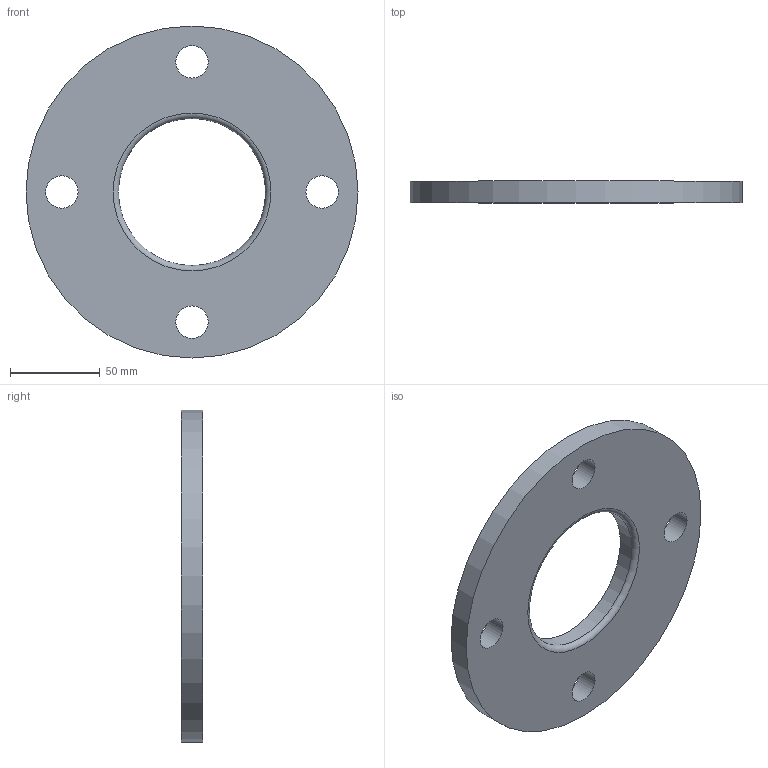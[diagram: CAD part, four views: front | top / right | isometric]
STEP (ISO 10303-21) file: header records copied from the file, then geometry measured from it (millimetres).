
FILE_DESCRIPTION(/* description */ (''),/* implementation_level */ '2;1');
FILE_NAME(/* name */ 'Z:\Geberit\Export\NewStep\365745.stp',/* time_stamp */ '2014-04-02T07:35:11+02:00',/* author */ ('nelson'),/* organization */ (''),/* preprocessor_version */ 'ST-DEVELOPER v15.2',/* originating_system */ 'Autodesk Inventor 2014',/* authorisation */ '');
FILE_SCHEMA (('AUTOMOTIVE_DESIGN { 1 0 10303 214 3 1 1 }'));
Length unit declared in the file: millimetre
Products named in the file (1): 365745
Bounding box: 185 x 12 x 185 mm (x, y, z)
Volume: 246470.6 mm3; surface area: 53615 mm2
Topology: 1 solids, 1 shells, 9 faces, 20 edges, 13 vertices
Faces by surface type: cylinder 6, plane 2, torus 1
Full cylindrical faces by diameter (mm): 18 x4, 82 x1, 185 x1
Entity records: 265 total; most frequent: DIRECTION 46, CARTESIAN_POINT 36, EDGE_LOOP 26, ORIENTED_EDGE 26, AXIS2_PLACEMENT_3D 23, FACE_BOUND 18, CIRCLE 13, VERTEX_POINT 13
